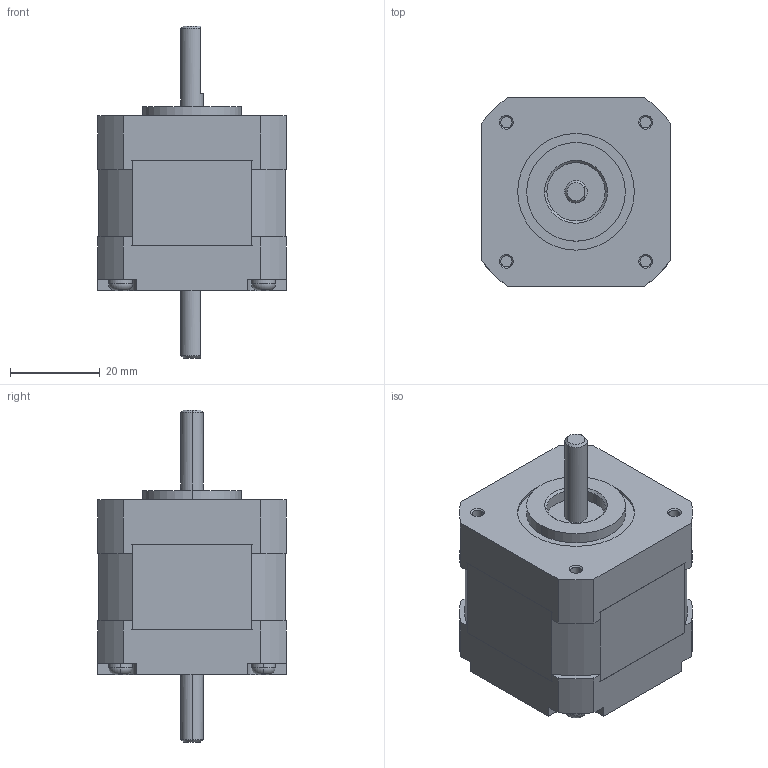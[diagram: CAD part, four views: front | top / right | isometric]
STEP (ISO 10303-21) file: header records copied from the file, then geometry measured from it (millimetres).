
FILE_DESCRIPTION (( 'STEP AP214' ), '1' );
FILE_NAME ('TS3667N12.STEP', '2011-09-15T09:04:54', ( '' ), ( '' ), 'SwSTEP 2.0', 'SolidWorks 2010', '' );
FILE_SCHEMA (( 'AUTOMOTIVE_DESIGN' ));
Length unit declared in the file: millimetre
Products named in the file (1): TS3667N12
Bounding box: 42 x 42 x 74 mm (x, y, z)
Volume: 65840.3 mm3; surface area: 14570.4 mm2
Topology: 2 solids, 2 shells, 195 faces, 512 edges, 332 vertices
Faces by surface type: plane 99, cylinder 72, cone 16, torus 8
Entity records: 6400 total; most frequent: CARTESIAN_POINT 1320, DIRECTION 1060, ORIENTED_EDGE 1024, EDGE_CURVE 512, AXIS2_PLACEMENT_3D 388, VERTEX_POINT 332, LINE 284, VECTOR 284
